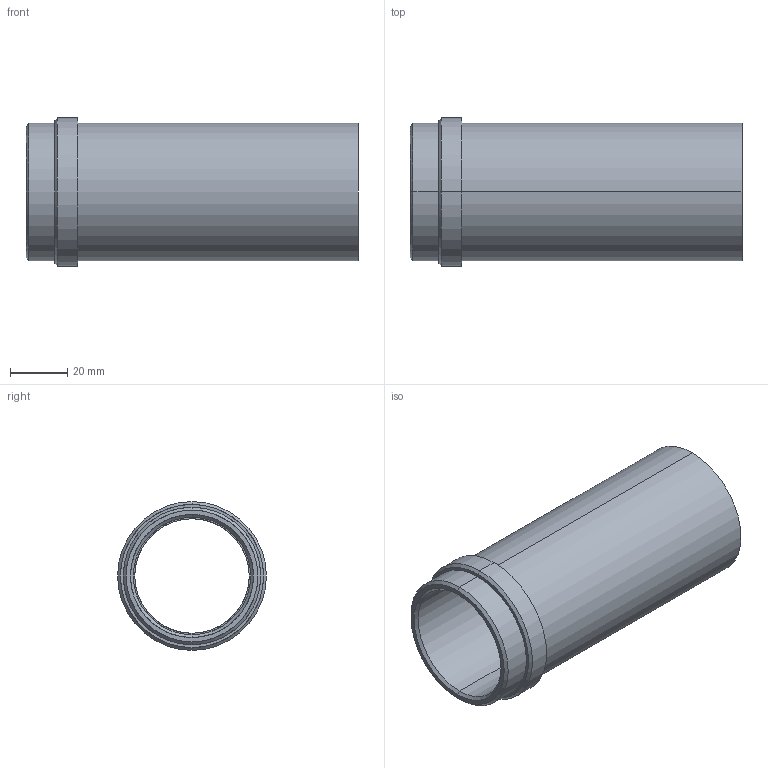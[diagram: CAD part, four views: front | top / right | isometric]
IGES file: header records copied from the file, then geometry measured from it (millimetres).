
Start section: START RECORD GO HERE.
Global section: file name: 358-40x116.igs; native system: DASSAULT SYSTEMES CATIA V5 R20 - www.3ds.com; preprocessor: CATIA Version 5 Release 20 ; author: Utente; organization: NB04-ASUS; date: 20210409.165125; units: millimetre
Bounding box: 116 x 52 x 52 mm (x, y, z)
Surface area: 33650.3 mm2 (no closed solid volume)
Topology: 0 solids, 0 shells, 23 faces, 148 edges, 148 vertices
Faces by surface type: revolution 18, plane 5
